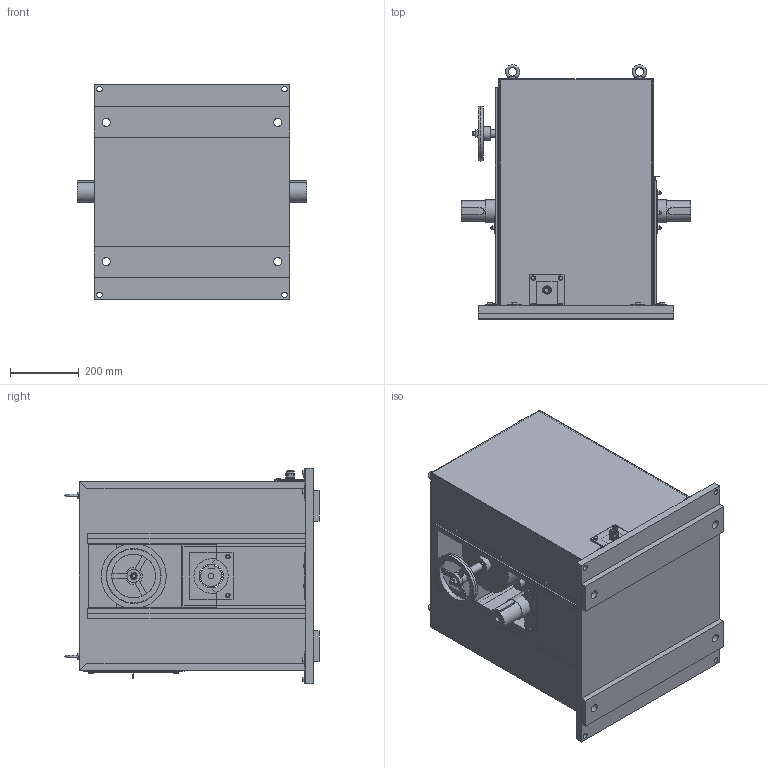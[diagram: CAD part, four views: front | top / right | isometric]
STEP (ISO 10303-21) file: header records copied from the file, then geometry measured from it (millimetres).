
FILE_DESCRIPTION (( 'STEP AP203' ), '1' );
FILE_NAME ('ECE-1515S-05_水門用直流電磁ブレーキ.STEP', '2026-04-07T01:16:21', ( '' ), ( '' ), 'SwSTEP 2.0', 'SolidWorks 2025', '' );
FILE_SCHEMA (( 'CONFIG_CONTROL_DESIGN' ));
Length unit declared in the file: millimetre
Products named in the file (1): ECE-1515S-05_水門用直流電磁ブレーキ
Bounding box: 670 x 741.47 x 630 mm (x, y, z)
Volume: 23550738.7 mm3; surface area: 4797742.1 mm2
Topology: 4 solids, 4 shells, 968 faces, 2437 edges, 1556 vertices
Faces by surface type: plane 671, cone 155, cylinder 126, sphere 12, torus 4
Full cylindrical faces by diameter (mm): 6 x2, 7 x2, 8 x4, 8.5 x4, 10 x12, 12 x1, 13 x17, 16 x5, 18 x8, 20 x1, 22 x2, 23 x1, 24 x8, 25 x1, 28 x1, 39 x2, 50 x1, 60 x2, 65 x3, 70 x1, 128 x1, 190 x1
Entity records: 29167 total; most frequent: CARTESIAN_POINT 6710, ORIENTED_EDGE 4602, DIRECTION 4353, EDGE_CURVE 2301, LINE 1563, VECTOR 1563, VERTEX_POINT 1515, AXIS2_PLACEMENT_3D 1395
